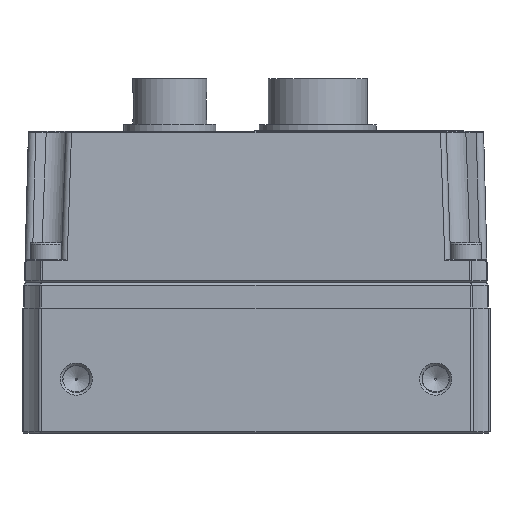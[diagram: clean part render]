
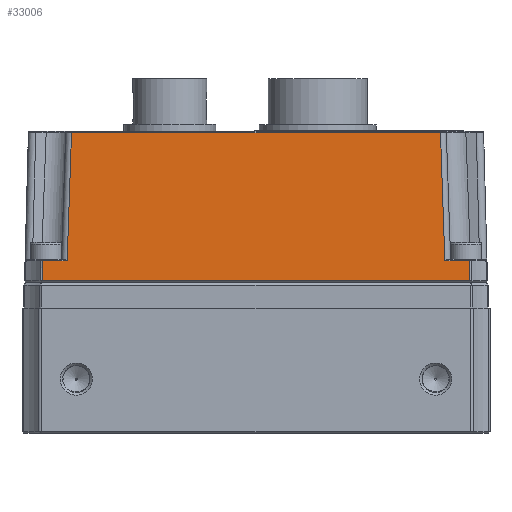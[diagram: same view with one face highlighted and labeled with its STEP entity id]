
A CAD part, front view. The second image highlights one B-rep face of the part: STEP entity #33006.
In plain terms, the highlighted planar face has unit normal (0, -1, 0.026).
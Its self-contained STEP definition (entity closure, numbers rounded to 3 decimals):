
#936=B_SPLINE_CURVE_WITH_KNOTS('',3,(#48763,#48764,#48765,#48766,#48767,
#48768,#48769,#48770,#48771,#48772),.UNSPECIFIED.,.F.,.F.,(4,1,1,1,1,1,
1,4),(5.754,6.12,6.485,7.217,
8.679,10.142,10.508,10.873),
 .UNSPECIFIED.);
#958=B_SPLINE_CURVE_WITH_KNOTS('',3,(#49128,#49129,#49130,#49131),
 .UNSPECIFIED.,.F.,.F.,(4,4),(0.05,0.291),
 .UNSPECIFIED.);
#959=B_SPLINE_CURVE_WITH_KNOTS('',3,(#49133,#49134,#49135,#49136),
 .UNSPECIFIED.,.F.,.F.,(4,4),(-0.291,-0.05),
 .UNSPECIFIED.);
#2012=PLANE('',#35099);
#3192=FACE_OUTER_BOUND('',#4951,.T.);
#4951=EDGE_LOOP('',(#22882,#22883,#22884,#22885,#22886,#22887,#22888,#22889));
#7494=LINE('',#47101,#10422);
#7501=LINE('',#47329,#10429);
#7622=LINE('',#48228,#10550);
#7623=LINE('',#48409,#10551);
#7624=LINE('',#48526,#10552);
#10422=VECTOR('',#37984,10.);
#10429=VECTOR('',#38035,10.);
#10550=VECTOR('',#38536,10.);
#10551=VECTOR('',#38571,10.);
#10552=VECTOR('',#38594,10.);
#13635=VERTEX_POINT('',#47095);
#13636=VERTEX_POINT('',#47099);
#13647=VERTEX_POINT('',#47320);
#13754=VERTEX_POINT('',#48227);
#13761=VERTEX_POINT('',#48402);
#13766=VERTEX_POINT('',#48524);
#13771=VERTEX_POINT('',#48705);
#13772=VERTEX_POINT('',#48758);
#16958=EDGE_CURVE('',#13636,#13635,#7494,.T.);
#16982=EDGE_CURVE('',#13636,#13647,#7501,.T.);
#17206=EDGE_CURVE('',#13754,#13635,#7622,.T.);
#17227=EDGE_CURVE('',#13754,#13761,#7623,.T.);
#17241=EDGE_CURVE('',#13766,#13647,#7624,.T.);
#17259=EDGE_CURVE('',#13771,#13772,#936,.T.);
#17281=EDGE_CURVE('',#13772,#13766,#958,.T.);
#17282=EDGE_CURVE('',#13761,#13771,#959,.T.);
#22882=ORIENTED_EDGE('',*,*,#16958,.F.);
#22883=ORIENTED_EDGE('',*,*,#16982,.T.);
#22884=ORIENTED_EDGE('',*,*,#17241,.F.);
#22885=ORIENTED_EDGE('',*,*,#17281,.F.);
#22886=ORIENTED_EDGE('',*,*,#17259,.F.);
#22887=ORIENTED_EDGE('',*,*,#17282,.F.);
#22888=ORIENTED_EDGE('',*,*,#17227,.F.);
#22889=ORIENTED_EDGE('',*,*,#17206,.T.);
#33006=ADVANCED_FACE('',(#3192),#2012,.T.);
#35099=AXIS2_PLACEMENT_3D('',#49132,#38609,#38610);
#37984=DIRECTION('',(1.,0.,0.));
#38035=DIRECTION('',(-0.034,-0.026,-0.999));
#38536=DIRECTION('',(-0.034,0.026,0.999));
#38571=DIRECTION('',(1.,0.,0.));
#38594=DIRECTION('',(1.,0.,0.));
#38609=DIRECTION('center_axis',(0.,-1.,
0.026));
#38610=DIRECTION('ref_axis',(1.,0.,0.));
#47095=CARTESIAN_POINT('',(22.073,-30.236,35.958));
#47099=CARTESIAN_POINT('',(-22.073,-30.236,35.958));
#47101=CARTESIAN_POINT('',(12.876,-30.236,35.958));
#47320=CARTESIAN_POINT('',(-22.596,-30.637,20.648));
#47329=CARTESIAN_POINT('',(-22.606,-30.645,20.352));
#48227=CARTESIAN_POINT('',(22.596,-30.637,20.648));
#48228=CARTESIAN_POINT('',(22.639,-30.67,19.374));
#48402=CARTESIAN_POINT('',(25.564,-30.637,20.648));
#48409=CARTESIAN_POINT('',(25.368,-30.637,20.648));
#48524=CARTESIAN_POINT('',(-25.564,-30.637,20.648));
#48526=CARTESIAN_POINT('',(0.384,-30.637,20.648));
#48705=CARTESIAN_POINT('',(25.596,-30.7,18.243));
#48758=CARTESIAN_POINT('',(-25.596,-30.7,18.243));
#48763=CARTESIAN_POINT('Ctrl Pts',(25.596,-30.7,18.243));
#48764=CARTESIAN_POINT('Ctrl Pts',(24.369,-30.7,18.243));
#48765=CARTESIAN_POINT('Ctrl Pts',(21.94,-30.7,18.243));
#48766=CARTESIAN_POINT('Ctrl Pts',(17.058,-30.7,18.243));
#48767=CARTESIAN_POINT('Ctrl Pts',(8.537,-30.7,18.243));
#48768=CARTESIAN_POINT('Ctrl Pts',(-3.662,-30.7,
18.243));
#48769=CARTESIAN_POINT('Ctrl Pts',(-14.619,-30.7,
18.243));
#48770=CARTESIAN_POINT('Ctrl Pts',(-21.939,-30.7,
18.243));
#48771=CARTESIAN_POINT('Ctrl Pts',(-24.369,-30.7,
18.243));
#48772=CARTESIAN_POINT('Ctrl Pts',(-25.596,-30.7,
18.243));
#49128=CARTESIAN_POINT('Ctrl Pts',(-25.596,-30.7,
18.243));
#49129=CARTESIAN_POINT('Ctrl Pts',(-25.585,-30.679,
19.045));
#49130=CARTESIAN_POINT('Ctrl Pts',(-25.574,-30.658,19.846));
#49131=CARTESIAN_POINT('Ctrl Pts',(-25.564,-30.637,
20.648));
#49132=CARTESIAN_POINT('Origin',(25.752,-30.705,18.043));
#49133=CARTESIAN_POINT('Ctrl Pts',(25.564,-30.637,20.648));
#49134=CARTESIAN_POINT('Ctrl Pts',(25.574,-30.658,19.846));
#49135=CARTESIAN_POINT('Ctrl Pts',(25.585,-30.679,19.045));
#49136=CARTESIAN_POINT('Ctrl Pts',(25.596,-30.7,18.243));
